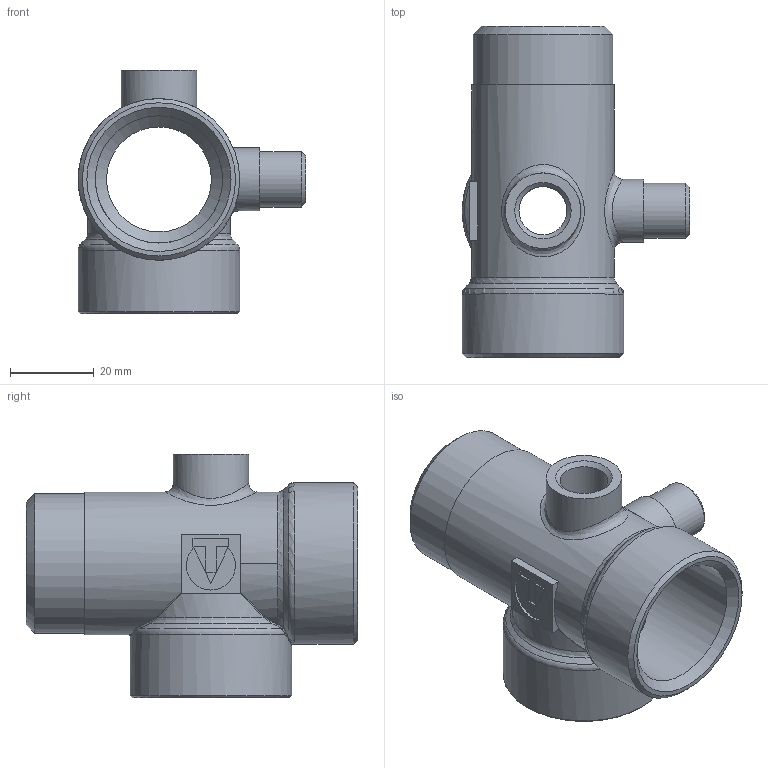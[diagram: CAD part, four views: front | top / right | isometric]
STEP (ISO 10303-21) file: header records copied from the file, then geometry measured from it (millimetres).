
FILE_DESCRIPTION(('STEP AP203'), '1');
FILE_NAME('ÂÐ.753197.002 - VTr.600.N.06080 Ïÿòèõîä. ñîåä. íàñîñ', '2024-07-09T10:22:09', ('User'), ('Vesta'), 'C3D Converter', 'C3D Toolkit', '');
FILE_SCHEMA(('CONFIG_CONTROL_DESIGN'));
Length unit declared in the file: millimetre
Products named in the file (1): ВР.753197.002
Bounding box: 54.25 x 79 x 58 mm (x, y, z)
Volume: 31690.5 mm3; surface area: 21298.6 mm2
Topology: 1 solids, 1 shells, 86 faces, 211 edges, 128 vertices
Faces by surface type: bspline 25, plane 24, cylinder 17, cone 14, torus 6
Full cylindrical faces by diameter (mm): 3 x1, 7.2 x1, 11.445 x1, 13.157 x1, 15 x1, 18 x1, 25 x1, 30.34 x2, 33.249 x1, 34 x1, 38.5 x2
Entity records: 5951 total; most frequent: CARTESIAN_POINT 4249, ORIENTED_EDGE 358, DIRECTION 264, EDGE_CURVE 179, VERTEX_POINT 125, EDGE_LOOP 122, AXIS2_PLACEMENT_3D 111, ADVANCED_FACE 85
